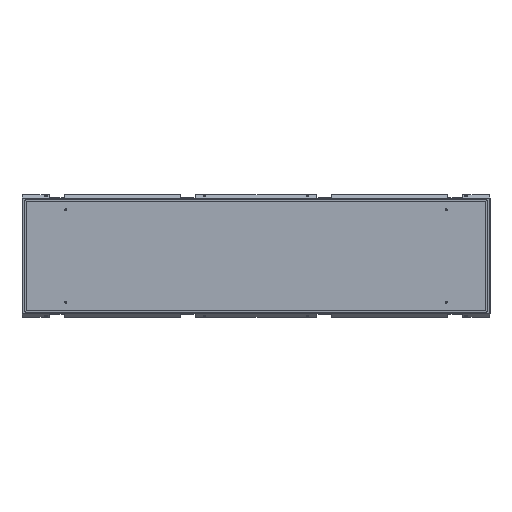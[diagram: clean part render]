
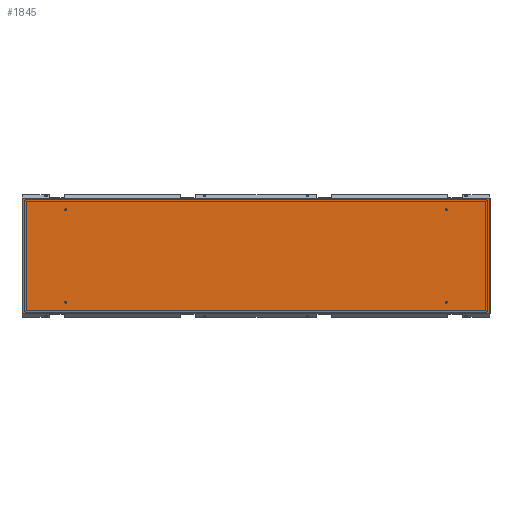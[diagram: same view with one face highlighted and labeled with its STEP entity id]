
A CAD part, left-side view. The second image highlights one B-rep face of the part: STEP entity #1845.
In plain terms, the highlighted planar face has unit normal (-1, 0, 0) as drawn and (0, 0, 1) by its records, which use the part's own axes.
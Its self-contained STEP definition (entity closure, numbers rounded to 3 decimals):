
#201 = CARTESIAN_POINT ( 'NONE',  ( -262.75, 1070.5, 0. ) ) ;
#458 = CARTESIAN_POINT ( 'NONE',  ( 262.75, -1070.5, 0. ) ) ;
#608 = EDGE_CURVE ( 'NONE', #4540, #3301, #8384, .T. ) ;
#749 = VECTOR ( 'NONE', #5519, 1000. ) ;
#758 = VERTEX_POINT ( 'NONE', #5882 ) ;
#1211 = CARTESIAN_POINT ( 'NONE',  ( 262.75, -1070.5, 0. ) ) ;
#1409 = PLANE ( 'NONE',  #3219 ) ;
#1427 = DIRECTION ( 'NONE',  ( -1., 0., 0. ) ) ;
#1454 = EDGE_LOOP ( 'NONE', ( #5419, #1743, #4407, #1790 ) ) ;
#1495 = DIRECTION ( 'NONE',  ( -1., 0., 0. ) ) ;
#1743 = ORIENTED_EDGE ( 'NONE', *, *, #7990, .T. ) ;
#1790 = ORIENTED_EDGE ( 'NONE', *, *, #5279, .T. ) ;
#1845 = ADVANCED_FACE ( 'NONE', ( #2244 ), #1409, .F. ) ;
#1931 = VECTOR ( 'NONE', #3773, 1000. ) ;
#1986 = CARTESIAN_POINT ( 'NONE',  ( 262.75, 1070.5, 0. ) ) ;
#2244 = FACE_OUTER_BOUND ( 'NONE', #1454, .T. ) ;
#3219 = AXIS2_PLACEMENT_3D ( 'NONE', #7399, #3501, #1495 ) ;
#3301 = VERTEX_POINT ( 'NONE', #1986 ) ;
#3360 = EDGE_CURVE ( 'NONE', #6141, #758, #4240, .T. ) ;
#3501 = DIRECTION ( 'NONE',  ( 0., 0., -1. ) ) ;
#3502 = DIRECTION ( 'NONE',  ( 0., -1., 0. ) ) ;
#3773 = DIRECTION ( 'NONE',  ( 0., 1., 0. ) ) ;
#4240 = LINE ( 'NONE', #6126, #5878 ) ;
#4407 = ORIENTED_EDGE ( 'NONE', *, *, #3360, .T. ) ;
#4540 = VERTEX_POINT ( 'NONE', #1211 ) ;
#5279 = EDGE_CURVE ( 'NONE', #758, #4540, #6957, .T. ) ;
#5419 = ORIENTED_EDGE ( 'NONE', *, *, #608, .T. ) ;
#5519 = DIRECTION ( 'NONE',  ( 1., 0., 0. ) ) ;
#5878 = VECTOR ( 'NONE', #3502, 1000. ) ;
#5882 = CARTESIAN_POINT ( 'NONE',  ( -262.75, -1070.5, 0. ) ) ;
#6126 = CARTESIAN_POINT ( 'NONE',  ( -262.75, -1070.5, 0. ) ) ;
#6141 = VERTEX_POINT ( 'NONE', #8619 ) ;
#6894 = LINE ( 'NONE', #201, #7285 ) ;
#6957 = LINE ( 'NONE', #7548, #749 ) ;
#7285 = VECTOR ( 'NONE', #1427, 1000. ) ;
#7399 = CARTESIAN_POINT ( 'NONE',  ( 0., 0., 0. ) ) ;
#7548 = CARTESIAN_POINT ( 'NONE',  ( -262.75, -1070.5, 0. ) ) ;
#7990 = EDGE_CURVE ( 'NONE', #3301, #6141, #6894, .T. ) ;
#8384 = LINE ( 'NONE', #458, #1931 ) ;
#8619 = CARTESIAN_POINT ( 'NONE',  ( -262.75, 1070.5, 0. ) ) ;
